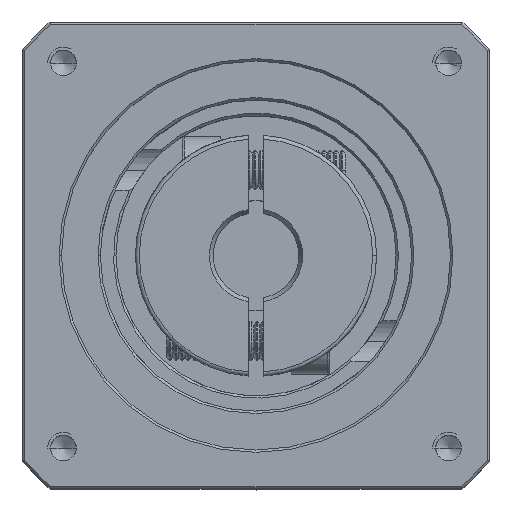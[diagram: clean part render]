
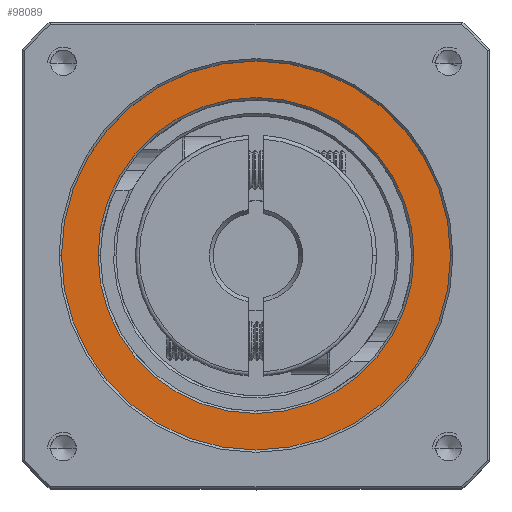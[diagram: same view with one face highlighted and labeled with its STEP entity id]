
A CAD part, top view. The second image highlights one B-rep face of the part: STEP entity #98089.
In plain terms, the highlighted planar face has unit normal (0, 0, 1).
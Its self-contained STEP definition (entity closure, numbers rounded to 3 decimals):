
#1380 = DIRECTION ( 'NONE',  ( 1., 0., 0. ) ) ;
#5027 = CIRCLE ( 'NONE', #17160, 20.3 ) ;
#7062 = PLANE ( 'NONE',  #53076 ) ;
#7649 = VERTEX_POINT ( 'NONE', #11487 ) ;
#8767 = AXIS2_PLACEMENT_3D ( 'NONE', #41610, #99775, #50052 ) ;
#10660 = CARTESIAN_POINT ( 'NONE',  ( -95.016, 10.431, 30.713 ) ) ;
#10989 = CARTESIAN_POINT ( 'NONE',  ( -74.716, 10.431, 30.713 ) ) ;
#11487 = CARTESIAN_POINT ( 'NONE',  ( -49.716, 10.431, 30.713 ) ) ;
#14590 = VERTEX_POINT ( 'NONE', #22845 ) ;
#17160 = AXIS2_PLACEMENT_3D ( 'NONE', #10989, #69317, #19328 ) ;
#19328 = DIRECTION ( 'NONE',  ( 1., 0., 0. ) ) ;
#22845 = CARTESIAN_POINT ( 'NONE',  ( -99.716, 10.431, 30.713 ) ) ;
#24136 = VERTEX_POINT ( 'NONE', #10660 ) ;
#24674 = ORIENTED_EDGE ( 'NONE', *, *, #57801, .T. ) ;
#26565 = AXIS2_PLACEMENT_3D ( 'NONE', #100970, #51245, #1380 ) ;
#27746 = VERTEX_POINT ( 'NONE', #94415 ) ;
#38179 = FACE_OUTER_BOUND ( 'NONE', #100675, .T. ) ;
#38717 = ORIENTED_EDGE ( 'NONE', *, *, #43971, .T. ) ;
#40446 = CARTESIAN_POINT ( 'NONE',  ( -74.716, 10.431, 30.713 ) ) ;
#41610 = CARTESIAN_POINT ( 'NONE',  ( -74.716, 10.431, 30.713 ) ) ;
#43971 = EDGE_CURVE ( 'NONE', #7649, #14590, #101604, .T. ) ;
#48203 = DIRECTION ( 'NONE',  ( 0., 0., 1. ) ) ;
#48871 = DIRECTION ( 'NONE',  ( 1., 0., 0. ) ) ;
#49226 = ORIENTED_EDGE ( 'NONE', *, *, #60405, .T. ) ;
#50052 = DIRECTION ( 'NONE',  ( 1., 0., 0. ) ) ;
#51245 = DIRECTION ( 'NONE',  ( 0., 0., 1. ) ) ;
#51525 = AXIS2_PLACEMENT_3D ( 'NONE', #97972, #48203, #106247 ) ;
#53076 = AXIS2_PLACEMENT_3D ( 'NONE', #40446, #98619, #48871 ) ;
#55389 = ORIENTED_EDGE ( 'NONE', *, *, #59582, .T. ) ;
#57801 = EDGE_CURVE ( 'NONE', #14590, #7649, #104757, .T. ) ;
#57812 = FACE_BOUND ( 'NONE', #90324, .T. ) ;
#59582 = EDGE_CURVE ( 'NONE', #24136, #27746, #97635, .T. ) ;
#60405 = EDGE_CURVE ( 'NONE', #27746, #24136, #5027, .T. ) ;
#69317 = DIRECTION ( 'NONE',  ( 0., 0., -1. ) ) ;
#90324 = EDGE_LOOP ( 'NONE', ( #49226, #55389 ) ) ;
#94415 = CARTESIAN_POINT ( 'NONE',  ( -54.416, 10.431, 30.713 ) ) ;
#97635 = CIRCLE ( 'NONE', #8767, 20.3 ) ;
#97972 = CARTESIAN_POINT ( 'NONE',  ( -74.716, 10.431, 30.713 ) ) ;
#98089 = ADVANCED_FACE ( 'NONE', ( #57812, #38179 ), #7062, .T. ) ;
#98619 = DIRECTION ( 'NONE',  ( 0., 0., 1. ) ) ;
#99775 = DIRECTION ( 'NONE',  ( 0., 0., -1. ) ) ;
#100675 = EDGE_LOOP ( 'NONE', ( #38717, #24674 ) ) ;
#100970 = CARTESIAN_POINT ( 'NONE',  ( -74.716, 10.431, 30.713 ) ) ;
#101604 = CIRCLE ( 'NONE', #51525, 25. ) ;
#104757 = CIRCLE ( 'NONE', #26565, 25. ) ;
#106247 = DIRECTION ( 'NONE',  ( 1., 0., 0. ) ) ;
